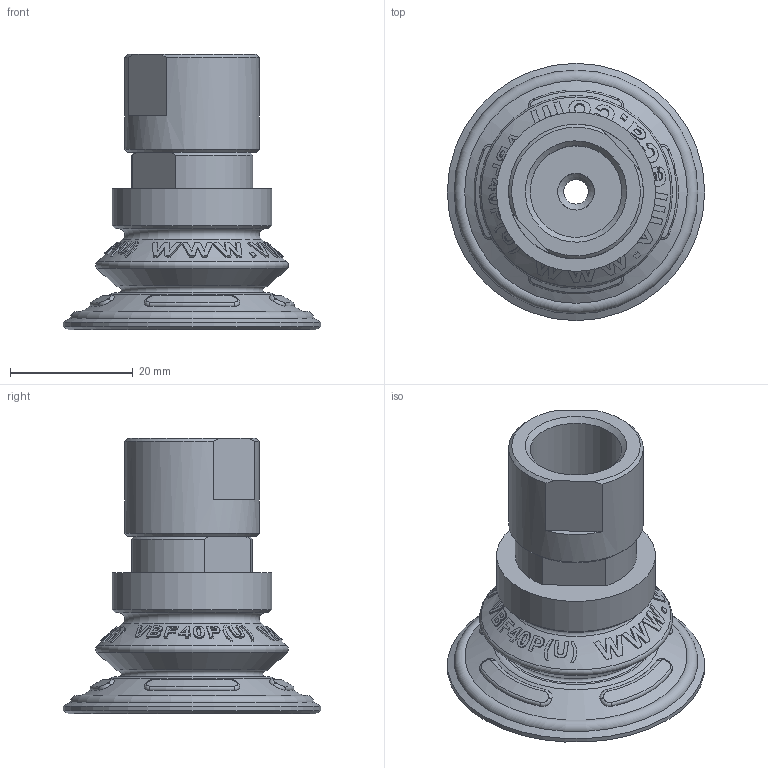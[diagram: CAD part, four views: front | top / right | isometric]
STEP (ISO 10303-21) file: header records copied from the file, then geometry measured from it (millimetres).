
FILE_DESCRIPTION( ( 'Unknown' ), '1' );
FILE_NAME( 'D:/濛機奢濰/Vacuum Pads/VBF/VBF40/VBF40 PU 38F.stp', 'Unknown', ( 'Unknown' ), ( 'Unknown' ), 'PSStep 10.0', 'Unknown', ' ' );
FILE_SCHEMA( ( 'automotive_design' ) );
Length unit declared in the file: millimetre
Products named in the file (1): VBF40
Bounding box: 42 x 42 x 44.94 mm (x, y, z)
Volume: 13841.7 mm3; surface area: 9747.1 mm2
Topology: 1 solids, 3 shells, 470 faces, 1212 edges, 789 vertices
Faces by surface type: bspline 180, plane 156, cylinder 63, cone 53, torus 18
Full cylindrical faces by diameter (mm): 4 x1, 6 x2, 6.7 x1, 8.8 x1, 13.5 x1, 14.95 x2, 15.5 x1, 16.1 x1, 22 x1, 26 x1, 42 x1
Entity records: 27354 total; most frequent: CARTESIAN_POINT 13721, ORIENTED_EDGE 2312, DIRECTION 1478, EDGE_CURVE 1156, VERTEX_POINT 776, EDGE_LOOP 560, AXIS2_PLACEMENT_3D 543, B_SPLINE_CURVE_WITH_KNOTS 512
